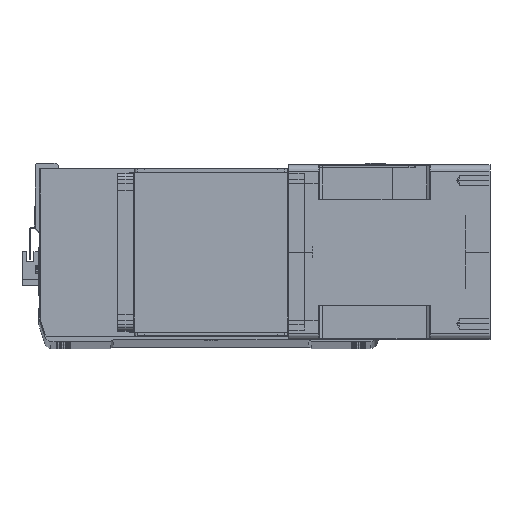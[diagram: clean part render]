
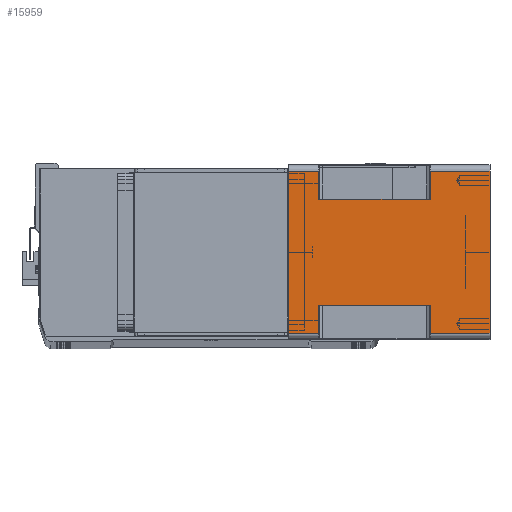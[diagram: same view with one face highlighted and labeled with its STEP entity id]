
A CAD part, top view. The second image highlights one B-rep face of the part: STEP entity #15959.
In plain terms, the highlighted planar face has unit normal (0, 0, 1) as drawn and (1, 0, 0) by its records, which use the part's own axes.
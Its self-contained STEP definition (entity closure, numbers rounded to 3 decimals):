
#320 = CARTESIAN_POINT ( 'NONE',  ( 71., 66., -164. ) ) ;
#615 = LINE ( 'NONE', #22808, #18589 ) ;
#893 = VERTEX_POINT ( 'NONE', #320 ) ;
#2126 = DIRECTION ( 'NONE',  ( 0., 1., 0. ) ) ;
#2530 = VECTOR ( 'NONE', #27253, 1000. ) ;
#3786 = VERTEX_POINT ( 'NONE', #31478 ) ;
#4673 = CARTESIAN_POINT ( 'NONE',  ( 71., -66., -164. ) ) ;
#4813 = VERTEX_POINT ( 'NONE', #31524 ) ;
#5331 = VERTEX_POINT ( 'NONE', #15238 ) ;
#5609 = VECTOR ( 'NONE', #22427, 1000. ) ;
#6256 = CARTESIAN_POINT ( 'NONE',  ( 71., 43., -115.5 ) ) ;
#6561 = ORIENTED_EDGE ( 'NONE', *, *, #26060, .T. ) ;
#6594 = VECTOR ( 'NONE', #34801, 1000. ) ;
#7270 = VECTOR ( 'NONE', #19930, 1000. ) ;
#8297 = EDGE_CURVE ( 'NONE', #18487, #8671, #12817, .T. ) ;
#8624 = CARTESIAN_POINT ( 'NONE',  ( 71., 66., -24.5 ) ) ;
#8671 = VERTEX_POINT ( 'NONE', #24541 ) ;
#9072 = EDGE_CURVE ( 'NONE', #15957, #5331, #32106, .T. ) ;
#9109 = ORIENTED_EDGE ( 'NONE', *, *, #22208, .T. ) ;
#9318 = CARTESIAN_POINT ( 'NONE',  ( 71., -66., -24.5 ) ) ;
#9453 = DIRECTION ( 'NONE',  ( 0., 1., 0. ) ) ;
#10390 = EDGE_CURVE ( 'NONE', #15957, #28297, #13265, .T. ) ;
#10573 = CARTESIAN_POINT ( 'NONE',  ( 71., -66., -115.5 ) ) ;
#11680 = ORIENTED_EDGE ( 'NONE', *, *, #28188, .T. ) ;
#11939 = CARTESIAN_POINT ( 'NONE',  ( 71., 66., -115.5 ) ) ;
#12164 = CARTESIAN_POINT ( 'NONE',  ( 71., -66., -164. ) ) ;
#12187 = PLANE ( 'NONE',  #29202 ) ;
#12333 = ORIENTED_EDGE ( 'NONE', *, *, #15602, .F. ) ;
#12583 = EDGE_CURVE ( 'NONE', #27758, #4813, #615, .T. ) ;
#12756 = ORIENTED_EDGE ( 'NONE', *, *, #13687, .F. ) ;
#12817 = LINE ( 'NONE', #6256, #27019 ) ;
#13265 = LINE ( 'NONE', #33642, #7270 ) ;
#13687 = EDGE_CURVE ( 'NONE', #3786, #8671, #24139, .T. ) ;
#14717 = CARTESIAN_POINT ( 'NONE',  ( 71., 66., -164. ) ) ;
#14959 = DIRECTION ( 'NONE',  ( 0., -1., 0. ) ) ;
#15238 = CARTESIAN_POINT ( 'NONE',  ( 71., -43., -24.5 ) ) ;
#15332 = VERTEX_POINT ( 'NONE', #12164 ) ;
#15520 = DIRECTION ( 'NONE',  ( 0., 1., 0. ) ) ;
#15602 = EDGE_CURVE ( 'NONE', #28297, #4813, #23517, .T. ) ;
#15701 = ORIENTED_EDGE ( 'NONE', *, *, #10390, .F. ) ;
#15957 = VERTEX_POINT ( 'NONE', #9318 ) ;
#15959 = ADVANCED_FACE ( 'NONE', ( #17453 ), #12187, .T. ) ;
#16206 = VERTEX_POINT ( 'NONE', #23801 ) ;
#16289 = ORIENTED_EDGE ( 'NONE', *, *, #9072, .T. ) ;
#16489 = VECTOR ( 'NONE', #32865, 1000. ) ;
#16904 = VECTOR ( 'NONE', #20007, 1000. ) ;
#17112 = CARTESIAN_POINT ( 'NONE',  ( 71., -66., -164. ) ) ;
#17453 = FACE_OUTER_BOUND ( 'NONE', #32531, .T. ) ;
#17967 = EDGE_CURVE ( 'NONE', #15332, #16206, #28732, .T. ) ;
#18487 = VERTEX_POINT ( 'NONE', #11939 ) ;
#18589 = VECTOR ( 'NONE', #28001, 1000. ) ;
#19865 = VECTOR ( 'NONE', #15520, 1000. ) ;
#19930 = DIRECTION ( 'NONE',  ( 0., 0., 1. ) ) ;
#20007 = DIRECTION ( 'NONE',  ( 0., 1., 0. ) ) ;
#20156 = CARTESIAN_POINT ( 'NONE',  ( 71., -66., -164. ) ) ;
#20483 = VECTOR ( 'NONE', #2126, 1000. ) ;
#21493 = ORIENTED_EDGE ( 'NONE', *, *, #12583, .T. ) ;
#22116 = VECTOR ( 'NONE', #25762, 1000. ) ;
#22205 = LINE ( 'NONE', #10573, #2530 ) ;
#22208 = EDGE_CURVE ( 'NONE', #3786, #27758, #29778, .T. ) ;
#22224 = CARTESIAN_POINT ( 'NONE',  ( 71., -66., 0. ) ) ;
#22427 = DIRECTION ( 'NONE',  ( 0., 0., 1. ) ) ;
#22808 = CARTESIAN_POINT ( 'NONE',  ( 71., 66., -164. ) ) ;
#22928 = LINE ( 'NONE', #32500, #16489 ) ;
#23245 = ORIENTED_EDGE ( 'NONE', *, *, #17967, .F. ) ;
#23462 = ORIENTED_EDGE ( 'NONE', *, *, #27648, .F. ) ;
#23517 = LINE ( 'NONE', #22224, #35562 ) ;
#23716 = LINE ( 'NONE', #4673, #19865 ) ;
#23801 = CARTESIAN_POINT ( 'NONE',  ( 71., -66., -115.5 ) ) ;
#24139 = LINE ( 'NONE', #26045, #6594 ) ;
#24541 = CARTESIAN_POINT ( 'NONE',  ( 71., 43., -115.5 ) ) ;
#24884 = EDGE_CURVE ( 'NONE', #893, #18487, #29416, .T. ) ;
#25352 = DIRECTION ( 'NONE',  ( 0., 1., 0. ) ) ;
#25762 = DIRECTION ( 'NONE',  ( 0., 0., 1. ) ) ;
#25768 = DIRECTION ( 'NONE',  ( 1., 0., 0. ) ) ;
#26045 = CARTESIAN_POINT ( 'NONE',  ( 71., 43., -164. ) ) ;
#26060 = EDGE_CURVE ( 'NONE', #33254, #16206, #22205, .T. ) ;
#26662 = CARTESIAN_POINT ( 'NONE',  ( 71., -43., -24.5 ) ) ;
#27019 = VECTOR ( 'NONE', #14959, 1000. ) ;
#27253 = DIRECTION ( 'NONE',  ( 0., -1., 0. ) ) ;
#27648 = EDGE_CURVE ( 'NONE', #33254, #5331, #22928, .T. ) ;
#27758 = VERTEX_POINT ( 'NONE', #8624 ) ;
#28001 = DIRECTION ( 'NONE',  ( 0., 0., 1. ) ) ;
#28188 = EDGE_CURVE ( 'NONE', #15332, #893, #23716, .T. ) ;
#28297 = VERTEX_POINT ( 'NONE', #33545 ) ;
#28682 = ORIENTED_EDGE ( 'NONE', *, *, #8297, .T. ) ;
#28732 = LINE ( 'NONE', #20156, #5609 ) ;
#29202 = AXIS2_PLACEMENT_3D ( 'NONE', #17112, #25768, #9453 ) ;
#29416 = LINE ( 'NONE', #14717, #22116 ) ;
#29778 = LINE ( 'NONE', #33705, #16904 ) ;
#31478 = CARTESIAN_POINT ( 'NONE',  ( 71., 43., -24.5 ) ) ;
#31524 = CARTESIAN_POINT ( 'NONE',  ( 71., 66., 0. ) ) ;
#32106 = LINE ( 'NONE', #26662, #20483 ) ;
#32500 = CARTESIAN_POINT ( 'NONE',  ( 71., -43., -164. ) ) ;
#32531 = EDGE_LOOP ( 'NONE', ( #23462, #6561, #23245, #11680, #35328, #28682, #12756, #9109, #21493, #12333, #15701, #16289 ) ) ;
#32865 = DIRECTION ( 'NONE',  ( 0., 0., 1. ) ) ;
#33254 = VERTEX_POINT ( 'NONE', #34719 ) ;
#33545 = CARTESIAN_POINT ( 'NONE',  ( 71., -66., 0. ) ) ;
#33642 = CARTESIAN_POINT ( 'NONE',  ( 71., -66., -164. ) ) ;
#33705 = CARTESIAN_POINT ( 'NONE',  ( 71., -66., -24.5 ) ) ;
#34719 = CARTESIAN_POINT ( 'NONE',  ( 71., -43., -115.5 ) ) ;
#34801 = DIRECTION ( 'NONE',  ( 0., 0., -1. ) ) ;
#35328 = ORIENTED_EDGE ( 'NONE', *, *, #24884, .T. ) ;
#35562 = VECTOR ( 'NONE', #25352, 1000. ) ;
